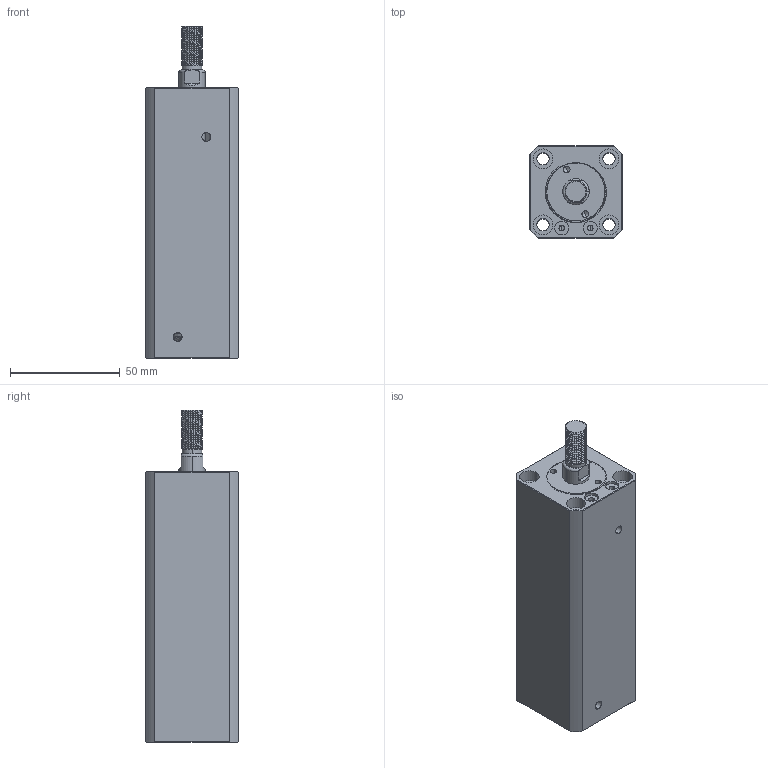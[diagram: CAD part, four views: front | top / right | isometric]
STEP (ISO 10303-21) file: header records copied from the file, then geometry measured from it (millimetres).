
FILE_DESCRIPTION (( 'STEP AP214' ), '1' );
FILE_NAME ('chtb-sdma20x80w_asm.STEP', '2018-05-18T04:43:35', ( 'Windows' ), ( 'Microsoft' ), 'SwSTEP 2.0', 'SolidWorks 2015', '' );
FILE_SCHEMA (( 'AUTOMOTIVE_DESIGN' ));
Length unit declared in the file: millimetre
Products named in the file (4): QG_3; CHTB-SDMA20X80WHSG; CHTB-SDMA20X80NBT; chtb-sdma20x80w_asm
Assembly tree (3 placements, depth 2):
  chtb-sdma20x80w_asm
    CHTB-SDMA20X80NBT
    CHTB-SDMA20X80WHSG
    QG_3
Bounding box: 42 x 42 x 151 mm (x, y, z)
Volume: 183329.6 mm3; surface area: 52154.1 mm2
Topology: 3 solids, 3 shells, 247 faces, 671 edges, 446 vertices
Faces by surface type: cylinder 144, plane 48, torus 25, bspline 23, cone 7
Entity records: 14895 total; most frequent: CARTESIAN_POINT 9018, ORIENTED_EDGE 1334, DIRECTION 1075, EDGE_CURVE 667, VERTEX_POINT 446, AXIS2_PLACEMENT_3D 441, EDGE_LOOP 285, ADVANCED_FACE 247
